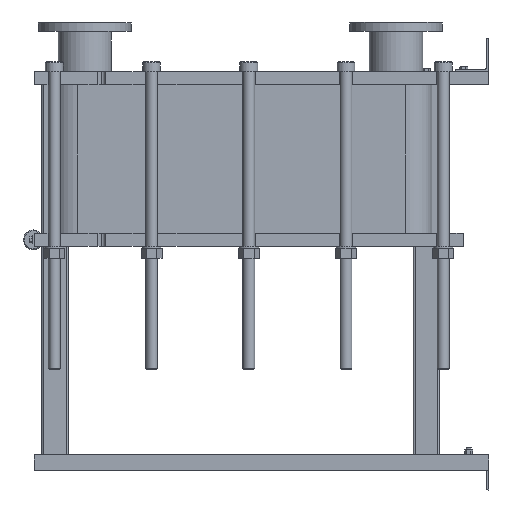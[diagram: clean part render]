
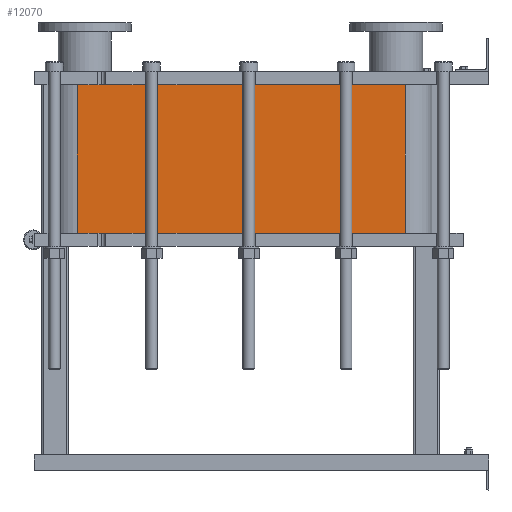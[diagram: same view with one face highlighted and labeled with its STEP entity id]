
A CAD part, left-side view. The second image highlights one B-rep face of the part: STEP entity #12070.
In plain terms, the highlighted planar face has unit normal (-1, 0, 0).
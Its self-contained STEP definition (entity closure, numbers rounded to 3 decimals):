
#1064=LINE('',#21140,#2164);
#1065=LINE('',#21144,#2165);
#1066=LINE('',#21146,#2166);
#1067=LINE('',#21147,#2167);
#2164=VECTOR('',#15790,10.);
#2165=VECTOR('',#15795,10.);
#2166=VECTOR('',#15796,10.);
#2167=VECTOR('',#15797,10.);
#3304=FACE_OUTER_BOUND('',#4091,.T.);
#4091=EDGE_LOOP('',(#9793,#9794,#9795,#9796));
#5677=VERTEX_POINT('',#21137);
#5678=VERTEX_POINT('',#21139);
#5679=VERTEX_POINT('',#21143);
#5680=VERTEX_POINT('',#21145);
#7118=EDGE_CURVE('',#5678,#5677,#1064,.T.);
#7120=EDGE_CURVE('',#5677,#5679,#1065,.T.);
#7121=EDGE_CURVE('',#5680,#5679,#1066,.T.);
#7122=EDGE_CURVE('',#5680,#5678,#1067,.T.);
#9793=ORIENTED_EDGE('',*,*,#7120,.T.);
#9794=ORIENTED_EDGE('',*,*,#7121,.F.);
#9795=ORIENTED_EDGE('',*,*,#7122,.T.);
#9796=ORIENTED_EDGE('',*,*,#7118,.T.);
#11441=PLANE('',#13191);
#12070=ADVANCED_FACE('',(#3304),#11441,.T.);
#13191=AXIS2_PLACEMENT_3D('',#21142,#15793,#15794);
#15790=DIRECTION('',(0.,0.,-1.));
#15793=DIRECTION('center_axis',(-1.,0.,0.));
#15794=DIRECTION('ref_axis',(0.,1.,0.));
#15795=DIRECTION('',(0.,-1.,0.));
#15796=DIRECTION('',(0.,0.,-1.));
#15797=DIRECTION('',(0.,1.,0.));
#21137=CARTESIAN_POINT('',(-248.152,1243.818,-448.5));
#21139=CARTESIAN_POINT('',(-248.152,1243.818,0.));
#21140=CARTESIAN_POINT('',(-248.152,1243.818,0.));
#21142=CARTESIAN_POINT('Origin',(-248.152,251.818,0.));
#21143=CARTESIAN_POINT('',(-248.152,251.818,-448.5));
#21144=CARTESIAN_POINT('',(-248.152,499.818,-448.5));
#21145=CARTESIAN_POINT('',(-248.152,251.818,0.));
#21146=CARTESIAN_POINT('',(-248.152,251.818,0.));
#21147=CARTESIAN_POINT('',(-248.152,251.818,0.));
